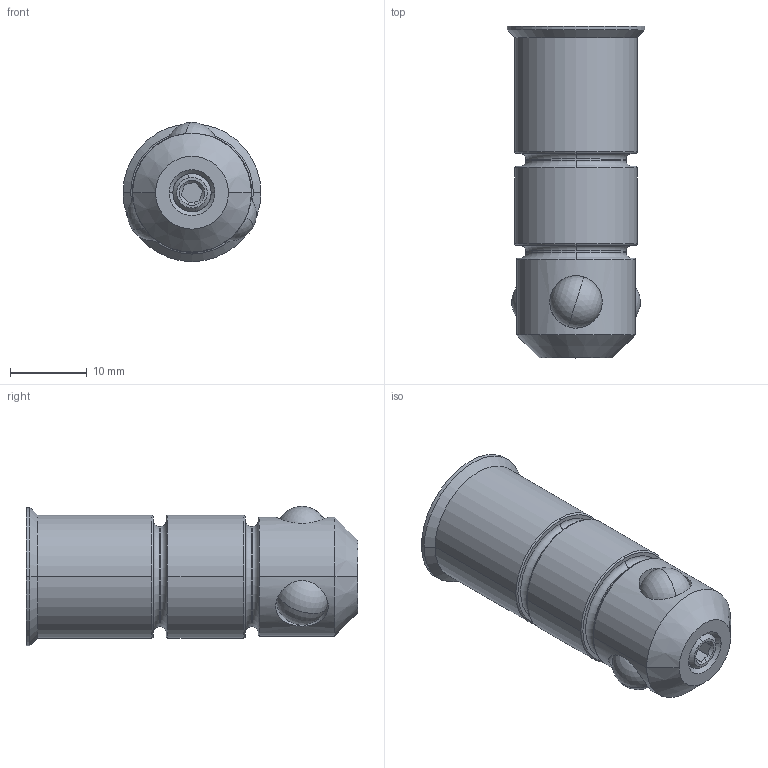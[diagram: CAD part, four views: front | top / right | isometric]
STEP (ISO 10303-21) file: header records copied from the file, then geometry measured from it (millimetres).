
FILE_DESCRIPTION (( 'STEP AP203' ), '1' );
FILE_NAME ('160529.step', '2014-08-11T16:04:28', ( 'User' ), ( '' ), 'SwSTEP 2.0', 'SolidWorks 2014', '' );
FILE_SCHEMA (( 'CONFIG_CONTROL_DESIGN' ));
Length unit declared in the file: millimetre
Products named in the file (5): Kugel 6,747^160529; Gewindestift M8x25 DIN 915^160529_Detailliert; Gewindestift M5x6 DIN 914^160529_Detailliert; 160529; Koerper^160529_Detailliert
Assembly tree (7 placements, depth 2):
  160529
    Koerper^160529_Detailliert
    Kugel 6,747^160529  x4
    Gewindestift M8x25 DIN 915^160529_Detailliert
    Gewindestift M5x6 DIN 914^160529_Detailliert
Bounding box: 18 x 43.3 x 18.18 mm (x, y, z)
Volume: 7464.2 mm3; surface area: 5116.5 mm2
Topology: 7 solids, 7 shells, 99 faces, 239 edges, 152 vertices
Faces by surface type: cylinder 28, plane 25, cone 20, torus 18, sphere 8
Entity records: 3744 total; most frequent: CARTESIAN_POINT 974, DIRECTION 499, ORIENTED_EDGE 426, AXIS2_PLACEMENT_3D 213, EDGE_CURVE 213, VERTEX_POINT 134, CIRCLE 110, EDGE_LOOP 107
